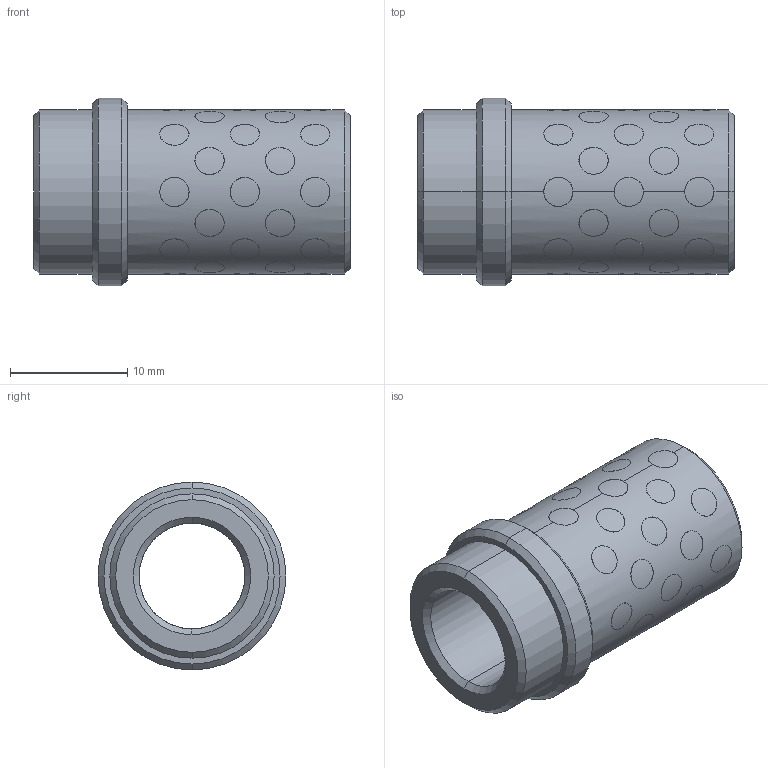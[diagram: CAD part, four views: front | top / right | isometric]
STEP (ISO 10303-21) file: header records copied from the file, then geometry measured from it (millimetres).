
FILE_DESCRIPTION((''),'2;1');
FILE_NAME('G31209022','2018-01-25T',('MANU'),(''),'PRO/ENGINEER BY PARAMETRIC TECHNOLOGY CORPORATION, 2012130','PRO/ENGINEER BY PARAMETRIC TECHNOLOGY CORPORATION, 2012130','');
FILE_SCHEMA(('CONFIG_CONTROL_DESIGN'));
Length unit declared in the file: millimetre
Products named in the file (1): G31209022
Bounding box: 27 x 16 x 16 mm (x, y, z)
Volume: 2543.7 mm3; surface area: 3753.5 mm2
Topology: 41 solids, 41 shells, 264 faces, 564 edges, 372 vertices
Faces by surface type: cylinder 248, cone 12, plane 4
Entity records: 11230 total; most frequent: CARTESIAN_POINT 6016, ORIENTED_EDGE 1128, DIRECTION 776, EDGE_CURVE 564, VERTEX_POINT 372, B_SPLINE_CURVE_WITH_KNOTS 344, EDGE_LOOP 336, AXIS2_PLACEMENT_3D 292
